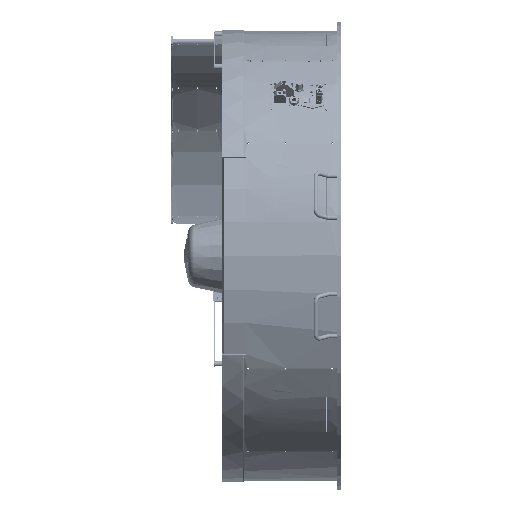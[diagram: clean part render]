
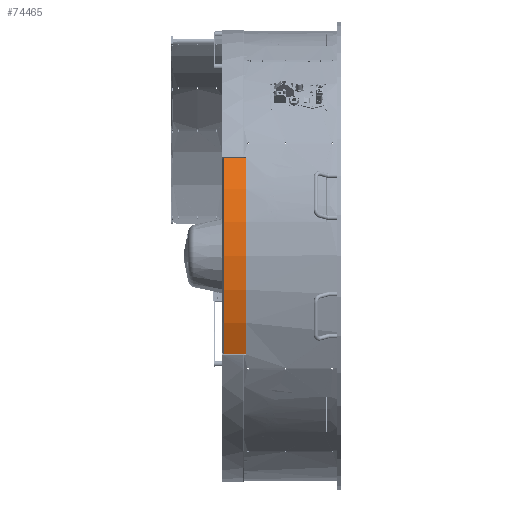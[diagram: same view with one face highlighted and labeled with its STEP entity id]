
A CAD part, left-side view. The second image highlights one B-rep face of the part: STEP entity #74465.
In plain terms, the highlighted cylindrical face has radius 620 mm (diameter 1240 mm), a partial arc.
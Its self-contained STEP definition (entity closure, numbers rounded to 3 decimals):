
#6706 = CARTESIAN_POINT ( 'NONE',  ( -270.574, 557.844, -67.776 ) ) ;
#46462 = VERTEX_POINT ( 'NONE', #205065 ) ;
#52994 = FACE_OUTER_BOUND ( 'NONE', #92356, .T. ) ;
#57120 = AXIS2_PLACEMENT_3D ( 'NONE', #262592, #296439, #206553 ) ;
#61960 = EDGE_CURVE ( 'NONE', #104738, #46462, #349115, .T. ) ;
#70861 = DIRECTION ( 'NONE',  ( 1., 0., 0. ) ) ;
#70958 = ORIENTED_EDGE ( 'NONE', *, *, #173126, .F. ) ;
#74465 = ADVANCED_FACE ( 'NONE', ( #52994 ), #84882, .T. ) ;
#84882 = CYLINDRICAL_SURFACE ( 'NONE', #57120, 620. ) ;
#87055 = ORIENTED_EDGE ( 'NONE', *, *, #125855, .T. ) ;
#89555 = VECTOR ( 'NONE', #377655, 1000. ) ;
#92356 = EDGE_LOOP ( 'NONE', ( #70958, #297659, #87055, #214771 ) ) ;
#100323 = EDGE_CURVE ( 'NONE', #335163, #301094, #346661, .T. ) ;
#104738 = VERTEX_POINT ( 'NONE', #108300 ) ;
#108300 = CARTESIAN_POINT ( 'NONE',  ( 270.574, 557.844, 0. ) ) ;
#125855 = EDGE_CURVE ( 'NONE', #301094, #46462, #373715, .T. ) ;
#126260 = DIRECTION ( 'NONE',  ( 0., 0., 1. ) ) ;
#148744 = LINE ( 'NONE', #274451, #180607 ) ;
#162073 = CARTESIAN_POINT ( 'NONE',  ( 0., 0., 0. ) ) ;
#173126 = EDGE_CURVE ( 'NONE', #335163, #104738, #148744, .T. ) ;
#180607 = VECTOR ( 'NONE', #332396, 1000. ) ;
#205065 = CARTESIAN_POINT ( 'NONE',  ( -270.574, 557.844, 0. ) ) ;
#206553 = DIRECTION ( 'NONE',  ( 1., 0., 0. ) ) ;
#214771 = ORIENTED_EDGE ( 'NONE', *, *, #61960, .F. ) ;
#222525 = CARTESIAN_POINT ( 'NONE',  ( 0., 0., -67.776 ) ) ;
#255876 = CARTESIAN_POINT ( 'NONE',  ( -270.574, 557.844, -72. ) ) ;
#259880 = AXIS2_PLACEMENT_3D ( 'NONE', #162073, #126260, #335896 ) ;
#262592 = CARTESIAN_POINT ( 'NONE',  ( 0., 0., -72. ) ) ;
#274451 = CARTESIAN_POINT ( 'NONE',  ( 270.574, 557.844, -72. ) ) ;
#280961 = CARTESIAN_POINT ( 'NONE',  ( 270.574, 557.844, -67.776 ) ) ;
#296439 = DIRECTION ( 'NONE',  ( 0., 0., 1. ) ) ;
#297659 = ORIENTED_EDGE ( 'NONE', *, *, #100323, .T. ) ;
#301094 = VERTEX_POINT ( 'NONE', #6706 ) ;
#327526 = AXIS2_PLACEMENT_3D ( 'NONE', #222525, #344317, #70861 ) ;
#332396 = DIRECTION ( 'NONE',  ( 0., 0., 1. ) ) ;
#335163 = VERTEX_POINT ( 'NONE', #280961 ) ;
#335896 = DIRECTION ( 'NONE',  ( 1., 0., 0. ) ) ;
#344317 = DIRECTION ( 'NONE',  ( 0., 0., 1. ) ) ;
#346661 = CIRCLE ( 'NONE', #327526, 620. ) ;
#349115 = CIRCLE ( 'NONE', #259880, 620. ) ;
#373715 = LINE ( 'NONE', #255876, #89555 ) ;
#377655 = DIRECTION ( 'NONE',  ( 0., 0., 1. ) ) ;
